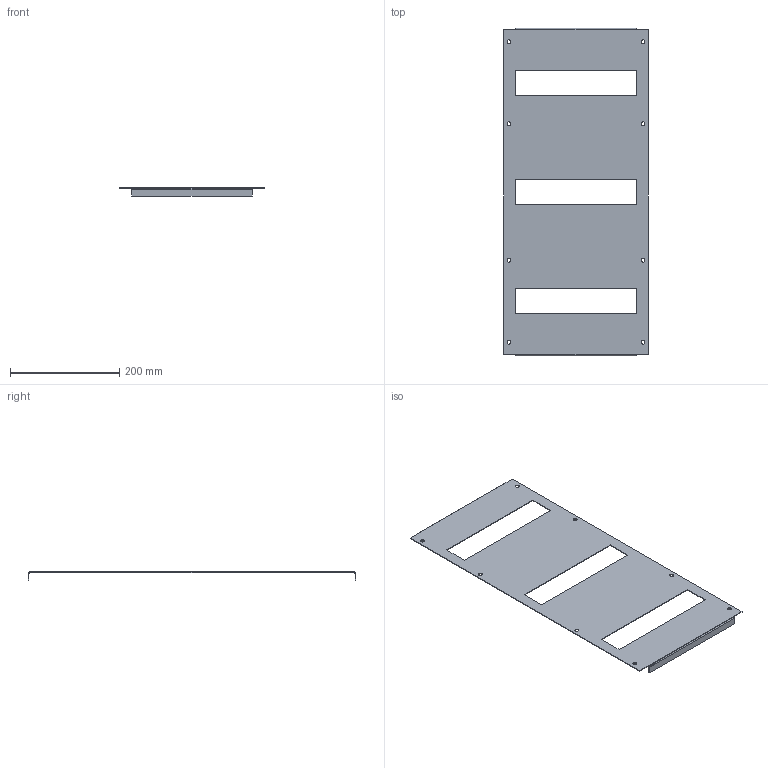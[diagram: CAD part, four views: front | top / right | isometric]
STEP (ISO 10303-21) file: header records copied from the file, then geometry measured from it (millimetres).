
FILE_DESCRIPTION (( 'STEP AP203' ), '1' );
FILE_NAME ('MB 60.30 Ð Ïàíåëü ìîäóëüíàÿ ñ âûðåçîì.STEP', '2022-05-12T11:39:31', ( '' ), ( '' ), 'SwSTEP 2.0', 'SolidWorks 2018', '' );
FILE_SCHEMA (( 'CONFIG_CONTROL_DESIGN' ));
Length unit declared in the file: millimetre
Products named in the file (1): MB 60.30 Ð Ïàíåëü ìîäóëüíàÿ ñ âûðåçîì
Bounding box: 265 x 599 x 15 mm (x, y, z)
Volume: 159817.8 mm3; surface area: 270647.1 mm2
Topology: 1 solids, 1 shells, 54 faces, 140 edges, 88 vertices
Faces by surface type: plane 34, cylinder 20
Entity records: 1757 total; most frequent: DIRECTION 290, CARTESIAN_POINT 283, ORIENTED_EDGE 280, EDGE_CURVE 140, LINE 100, VECTOR 100, AXIS2_PLACEMENT_3D 95, VERTEX_POINT 88
